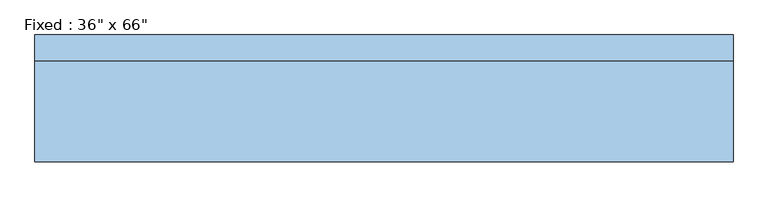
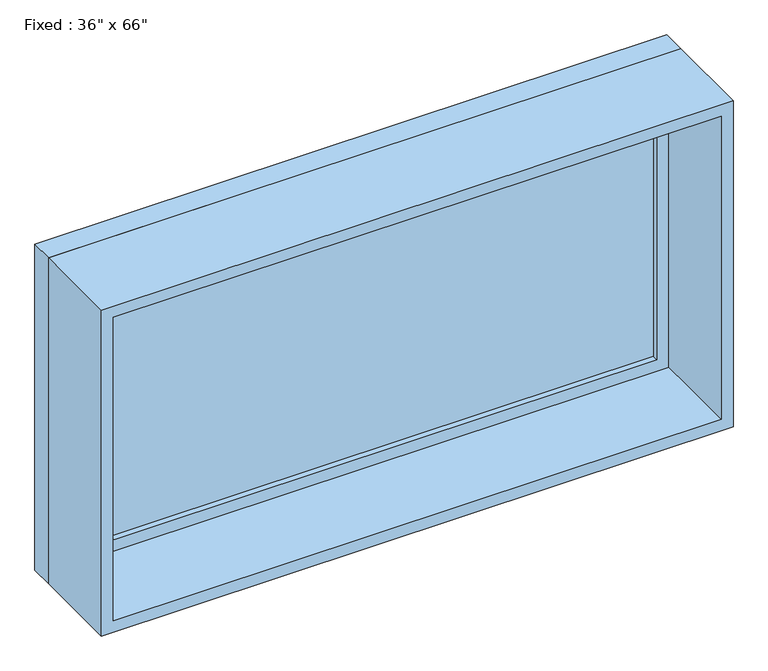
"""IFC4 building model written with IfcOpenShell, lengths in millimetres: window geometry."""

from ifc_helpers import new_model, si_unit, frame, origin, place, context, project, spatial, polyline, outline, extrude, source, transform, mapped, element, save


def window_32fa4092(model_context):
    return source(origin(), model_context, "Body", "SweptSolid", [
        extrude(outline(polyline([(736.6, 104.775), (-812.8, 104.775), (-812.8, 117.475), (736.6, 117.475), (736.6, 104.775)])), frame((0.0, 0.0, 977.9), z_axis=(0.0, 0.0, 1.0), x_axis=(1.0, 0.0, 0.0)), (0.0, 0.0, 1.0), 787.4),
        extrude(outline(polyline([(1809.75, -857.25), (933.45, -857.25), (933.45, 781.05), (1809.75, 781.05), (1809.75, -857.25)]), holes=[polyline([(1765.3, -812.8), (1765.3, 736.6), (977.9, 736.6), (977.9, -812.8), (1765.3, -812.8)])]), frame((0.0, 88.9, 0.0), z_axis=(0.0, 1.0, 0.0), x_axis=(0.0, 0.0, 1.0)), (0.0, 0.0, 1.0), 44.45),
        extrude(outline(polyline([(1828.8, -876.3), (914.4, -876.3), (914.4, 800.1), (1828.8, 800.1), (1828.8, -876.3)]), holes=[polyline([(1797.05, -844.55), (1797.05, 768.35), (946.15, 768.35), (946.15, -844.55), (1797.05, -844.55)])]), frame((0.0, -152.4, 0.0), z_axis=(0.0, 1.0, 0.0), x_axis=(0.0, 0.0, 1.0)), (0.0, 0.0, 1.0), 241.3),
        extrude(outline(polyline([(1828.8, 800.1), (1828.8, -876.3), (914.4, -876.3), (914.4, 800.1), (1828.8, 800.1)]), holes=[polyline([(1809.75, 781.05), (933.45, 781.05), (933.45, -857.25), (1809.75, -857.25), (1809.75, 781.05)])]), frame((0.0, 88.9, 0.0), z_axis=(0.0, 1.0, 0.0), x_axis=(0.0, 0.0, 1.0)), (0.0, 0.0, 1.0), 63.5),
    ])


if __name__ == "__main__":
    model = new_model("IFC4")
    model_context = context("Model", 3, world=origin())
    ifc_project = project(units=[si_unit("LENGTHUNIT", "METRE", prefix="MILLI")], contexts=[model_context])
    site = spatial("IfcSite", under=ifc_project)
    building = spatial("IfcBuilding", under=site)
    placement = place(None, origin())
    window_shape = window_32fa4092(model_context)
    element("IfcWindow", 1, ObjectType="Fixed : 36\" x 66\"", at=placement, inside=building, context=model_context, shape_type="MappedRepresentation", body=[
        mapped(window_shape, transform((0.0, 0.0, 0.0), x_axis=(1.0, 0.0, 0.0), y_axis=(0.0, 1.0, 0.0), z_axis=(0.0, 0.0, 1.0))),
    ])
    save(model, "model.ifc")
